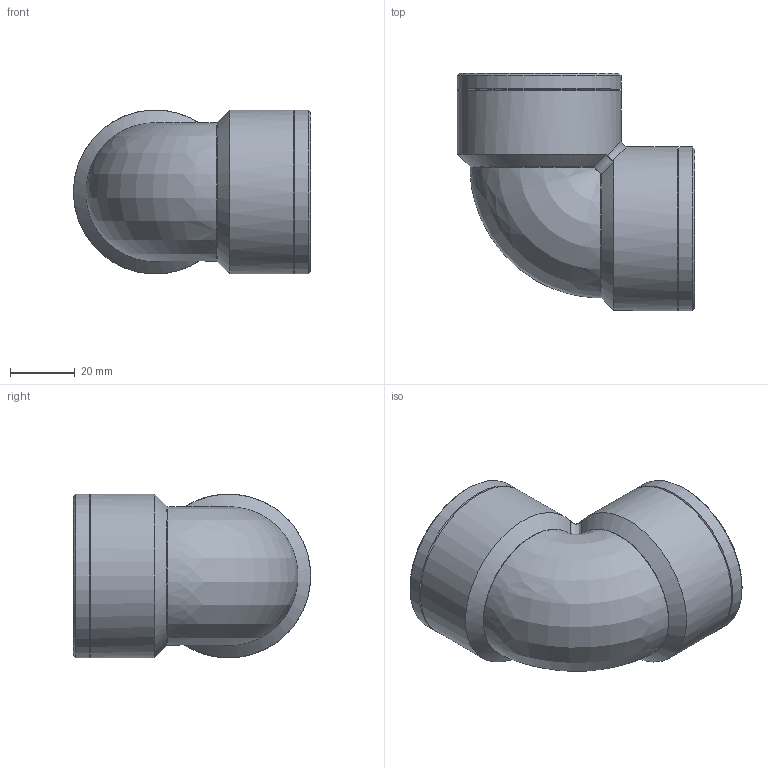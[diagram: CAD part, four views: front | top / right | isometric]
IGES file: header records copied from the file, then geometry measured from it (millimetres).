
Global section: file name: 050507013_0505070130A.ipt; native system: Autodesk Inventor 2015; preprocessor: unknown; author: KIM; date: 20170618.093215; units: millimetre
Bounding box: 73.32 x 73.32 x 50.64 mm (x, y, z)
Volume: 60550 mm3; surface area: 25483.8 mm2
Topology: 1 solids, 1 shells, 27 faces, 69 edges, 44 vertices
Faces by surface type: cone 8, revolution 8, cylinder 6, bspline 3, plane 2
Full cylindrical faces by diameter (mm): 50.638 x4
